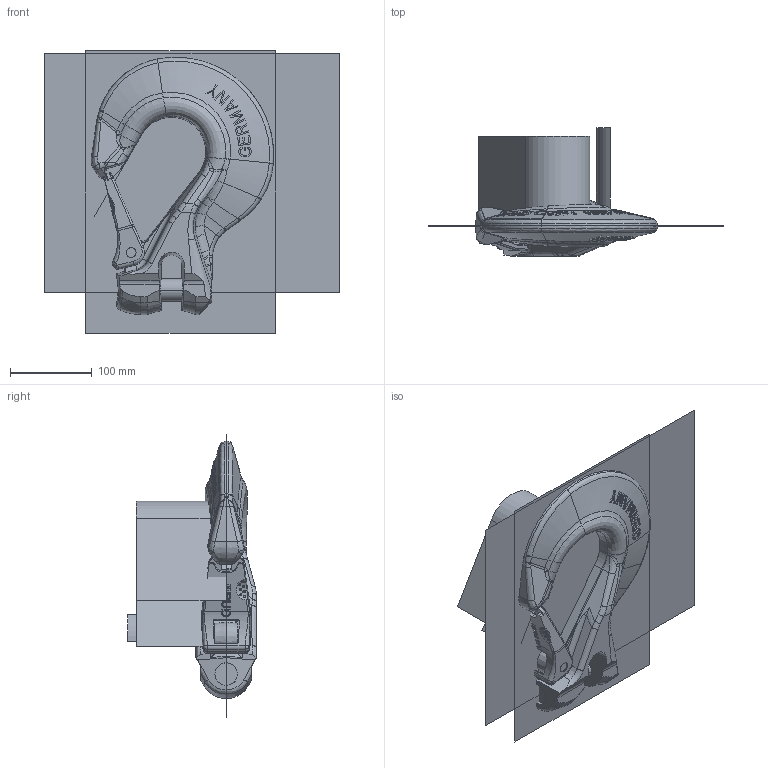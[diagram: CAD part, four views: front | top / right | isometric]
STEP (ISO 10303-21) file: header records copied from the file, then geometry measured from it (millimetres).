
FILE_DESCRIPTION((''),'2;1');
FILE_NAME('001-M32467-P200_ASM','2022-02-01T08:37:10',('Roland.Jakubetz'),(''),'CREO PARAMETRIC BY PTC INC, 2020454','CREO PARAMETRIC BY PTC INC, 2020454','');
FILE_SCHEMA(('AP242_MANAGED_MODEL_BASED_3D_ENGINEERING_MIM_LF { 1 0 10303 442 1 1 4 }'));
Products named in the file (5): 001-M32467-P200; 16541_23MNNICRMO5-2; 001-M32232-P99; ST37; 001-M32467-P200_ASM
Assembly tree (2 placements, depth 2):
  16541_23MNNICRMO5-2
  ST37
  001-M32467-P200_ASM
    001-M32467-P200
    001-M32232-P99
Bounding box: 360.92 x 157.78 x 345.58 mm (x, y, z)
Volume: 1417006.9 mm3; surface area: 408434.3 mm2
Topology: 2 solids, 19 shells, 1238 faces, 3595 edges, 2410 vertices
Faces by surface type: plane 662, bspline 357, cylinder 132, sphere 36, cone 30, extrusion 17, torus 4
Entity records: 86390 total; most frequent: CARTESIAN_POINT 46269, ORIENTED_EDGE 6703, DIRECTION 3880, PRESENTATION_STYLE_ASSIGNMENT 3635, STYLED_ITEM 3633, CURVE_STYLE 3608, EDGE_CURVE 3506, VERTEX_POINT 2340
